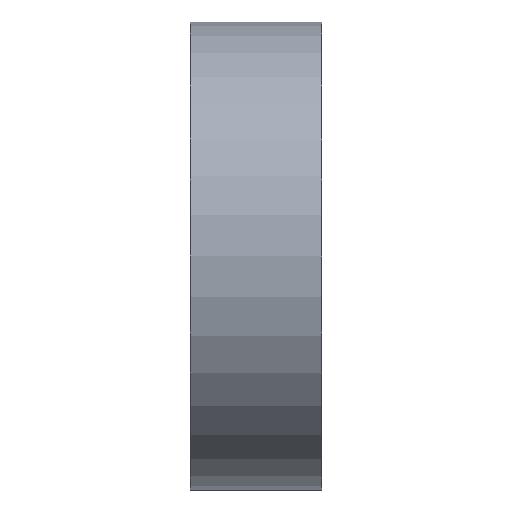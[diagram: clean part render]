
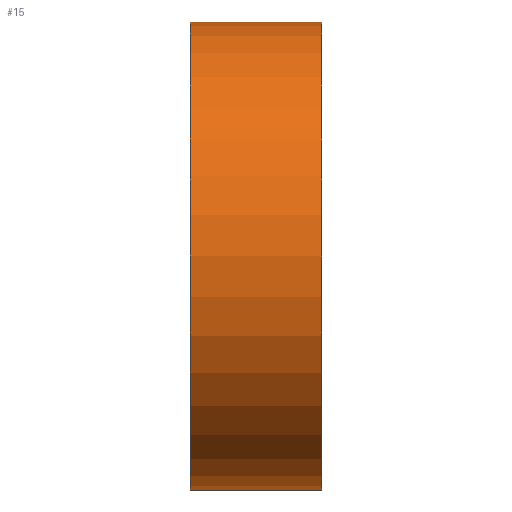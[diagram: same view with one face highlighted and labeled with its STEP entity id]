
A CAD part, left-side view. The second image highlights one B-rep face of the part: STEP entity #15.
In plain terms, the highlighted cylindrical face has radius 26 mm (diameter 52 mm), a partial arc.
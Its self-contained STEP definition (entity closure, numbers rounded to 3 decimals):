
#1 = DIRECTION ( 'NONE',  ( 0., 0., -1. ) ) ;
#15 = ADVANCED_FACE ( 'NONE', ( #249 ), #110, .T. ) ;
#17 = VERTEX_POINT ( 'NONE', #148 ) ;
#19 = DIRECTION ( 'NONE',  ( 0., 1., 0. ) ) ;
#33 = CARTESIAN_POINT ( 'NONE',  ( 0., 1., -26. ) ) ;
#41 = CIRCLE ( 'NONE', #202, 26. ) ;
#55 = DIRECTION ( 'NONE',  ( 0., -1., 0. ) ) ;
#57 = CARTESIAN_POINT ( 'NONE',  ( 0., 17.6, -26. ) ) ;
#66 = AXIS2_PLACEMENT_3D ( 'NONE', #95, #93, #1 ) ;
#78 = CIRCLE ( 'NONE', #102, 26. ) ;
#93 = DIRECTION ( 'NONE',  ( 0., -1., 0. ) ) ;
#94 = DIRECTION ( 'NONE',  ( 0., 0., -1. ) ) ;
#95 = CARTESIAN_POINT ( 'NONE',  ( 0., 1., 0. ) ) ;
#101 = CARTESIAN_POINT ( 'NONE',  ( 0., 3., 26. ) ) ;
#102 = AXIS2_PLACEMENT_3D ( 'NONE', #295, #55, #94 ) ;
#110 = CYLINDRICAL_SURFACE ( 'NONE', #66, 26. ) ;
#119 = EDGE_CURVE ( 'NONE', #169, #264, #232, .T. ) ;
#128 = ORIENTED_EDGE ( 'NONE', *, *, #162, .F. ) ;
#142 = EDGE_CURVE ( 'NONE', #264, #17, #78, .T. ) ;
#148 = CARTESIAN_POINT ( 'NONE',  ( 0., 3., -26. ) ) ;
#162 = EDGE_CURVE ( 'NONE', #265, #169, #41, .T. ) ;
#169 = VERTEX_POINT ( 'NONE', #269 ) ;
#199 = DIRECTION ( 'NONE',  ( 0., 0., 1. ) ) ;
#202 = AXIS2_PLACEMENT_3D ( 'NONE', #223, #19, #199 ) ;
#212 = DIRECTION ( 'NONE',  ( 0., -1., 0. ) ) ;
#223 = CARTESIAN_POINT ( 'NONE',  ( 0., 17.6, 0. ) ) ;
#226 = EDGE_CURVE ( 'NONE', #265, #17, #233, .T. ) ;
#232 = LINE ( 'NONE', #250, #258 ) ;
#233 = LINE ( 'NONE', #33, #247 ) ;
#246 = ORIENTED_EDGE ( 'NONE', *, *, #226, .T. ) ;
#247 = VECTOR ( 'NONE', #286, 1000. ) ;
#249 = FACE_OUTER_BOUND ( 'NONE', #259, .T. ) ;
#250 = CARTESIAN_POINT ( 'NONE',  ( 0., 1., 26. ) ) ;
#258 = VECTOR ( 'NONE', #212, 1000. ) ;
#259 = EDGE_LOOP ( 'NONE', ( #296, #128, #246, #294 ) ) ;
#264 = VERTEX_POINT ( 'NONE', #101 ) ;
#265 = VERTEX_POINT ( 'NONE', #57 ) ;
#269 = CARTESIAN_POINT ( 'NONE',  ( 0., 17.6, 26. ) ) ;
#286 = DIRECTION ( 'NONE',  ( 0., -1., 0. ) ) ;
#294 = ORIENTED_EDGE ( 'NONE', *, *, #142, .F. ) ;
#295 = CARTESIAN_POINT ( 'NONE',  ( 0., 3., 0. ) ) ;
#296 = ORIENTED_EDGE ( 'NONE', *, *, #119, .F. ) ;
